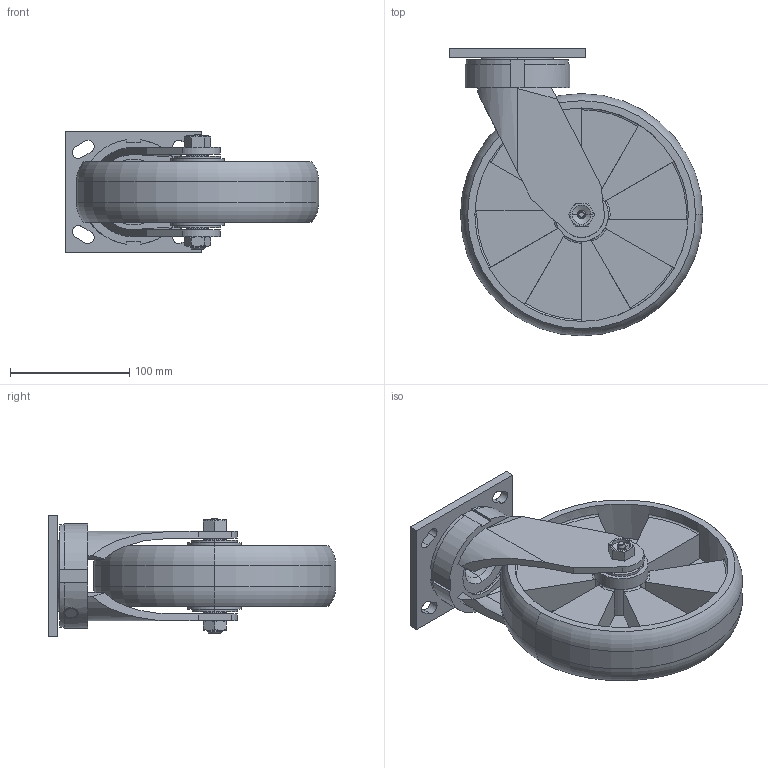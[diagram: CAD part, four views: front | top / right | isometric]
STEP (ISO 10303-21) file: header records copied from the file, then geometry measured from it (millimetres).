
FILE_DESCRIPTION (( 'STEP AP203' ), '1' );
FILE_NAME ('8寸抗冲击不带刹车.STEP', '2023-03-06T06:18:17', ( 'amidn' ), ( '' ), 'SwSTEP 2.0', 'SolidWorks 2018', '' );
FILE_SCHEMA (( 'CONFIG_CONTROL_DESIGN' ));
Length unit declared in the file: millimetre
Products named in the file (9): _52000.08^4.08189.539(2)_4.08189.539; _SK-9905X63-1P^4.08189.539(2)_4.08189.539; _05953.76(2.96)^4.08189.539(2)_4.08189.539; 8寸抗冲击不带刹车; _SK-9905X95-4-F^4.08189.539(2)_4.08189.539; _50116.03^4.08189.539(2)_4.08189.539; _5.00008.539 (T)^4.08189.539(2)_4.08189.539; _55000.23^4.08189.539(2)_4.08189.539; 4.08189.539(2)^4.08189.539
Assembly tree (9 placements, depth 3):
  8寸抗冲击不带刹车
    4.08189.539(2)^4.08189.539
      _SK-9905X63-1P^4.08189.539(2)_4.08189.539
      _SK-9905X95-4-F^4.08189.539(2)_4.08189.539
      _05953.76(2.96)^4.08189.539(2)_4.08189.539
      _5.00008.539 (T)^4.08189.539(2)_4.08189.539
      _52000.08^4.08189.539(2)_4.08189.539
      _55000.23^4.08189.539(2)_4.08189.539
      _50116.03^4.08189.539(2)_4.08189.539  x2
Bounding box: 212.6 x 241.3 x 101.6 mm (x, y, z)
Volume: 901187 mm3; surface area: 278729.5 mm2
Topology: 8 solids, 9 shells, 345 faces, 848 edges, 534 vertices
Faces by surface type: plane 160, cylinder 102, cone 43, torus 40
Entity records: 11707 total; most frequent: CARTESIAN_POINT 2580, DIRECTION 1807, ORIENTED_EDGE 1656, EDGE_CURVE 828, AXIS2_PLACEMENT_3D 706, VERTEX_POINT 522, VECTOR 395, LINE 395
